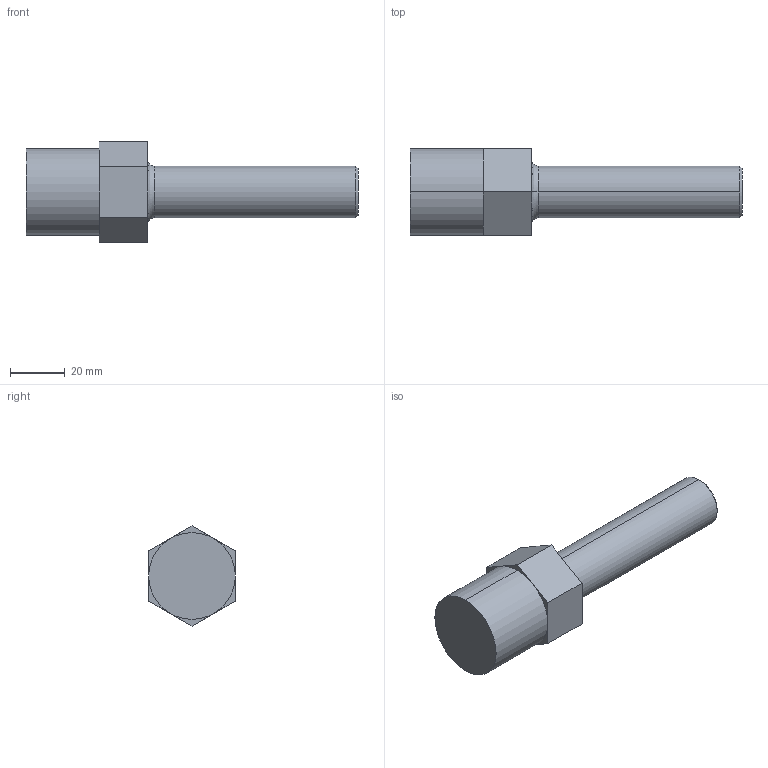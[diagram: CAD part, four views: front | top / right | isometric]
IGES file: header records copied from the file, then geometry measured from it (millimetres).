
Start section: SolidWorks IGES file using analytic representation for surfaces
Global section: file name: S:\Product Visuals\Defeatured Models and Parts Library\Parts Library IGES & STEP\Liquid Fittings\Front Mount liquid Fittings\Tubeout\60LPM\Fitting Tubeout 12.IGS; native system: SolidWorks 2012; preprocessor: SolidWorks 2012; author: rachel.dressel; date: 120926.154623; units: inch
Bounding box: 121.72 x 31.75 x 36.66 mm (x, y, z)
Volume: 58783.4 mm3; surface area: 10905.4 mm2
Topology: 1 solids, 1 shells, 23 faces, 50 edges, 30 vertices
Faces by surface type: plane 15, revolution 8
